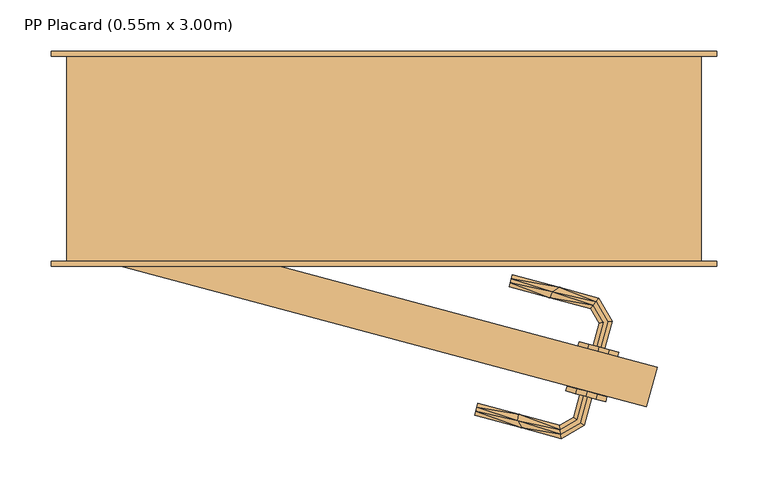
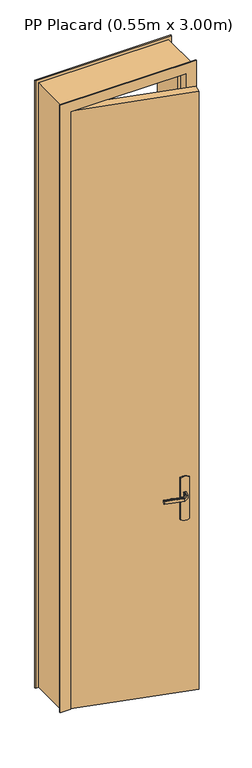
"""IFC4 building model written with IfcOpenShell, lengths in millimetres: door geometry, PP Placard (0.55m x 3.00m)."""

from ifc_helpers import new_model, si_unit, frame, origin, origin_with_axes, place, context, project, spatial, polyline, outline, extrude, faceted_brep, source, transform, mapped, element, save


def pp_placard_0_55m_x_3_00m_3d9be6f6(model_context):
    return source(origin(), model_context, "Body", "SolidModel", [
        faceted_brep([(575.0532714, -131.1267754, 1007.7804408), (578.9658479, -132.1751471, 1007.7804408), (582.8051146, -133.2038755, 1007.0), (582.8051146, -133.2038755, 993.0), (578.9658479, -132.1751471, 992.2195592), (575.0532714, -131.1267754, 992.2195592), (571.2140047, -130.098047, 993.0), (571.2140047, -130.098047, 1007.0), (572.2353685, -157.2936382, 1007.7804408), (575.648522, -159.9126429, 1007.0), (568.7570418, -154.6246242, 1007.7804408), (552.0073098, -164.2950864, 1007.7804408), (552.5795804, -168.6419128, 1007.7804408), (565.3438883, -152.0056194, 1007.0), (565.3438883, -152.0056194, 993.0), (568.7570418, -154.6246242, 992.2195592), (572.2353685, -157.2936382, 992.2195592), (552.5795804, -168.6419128, 992.2195592), (552.0073098, -164.2950864, 992.2195592), (575.648522, -159.9126429, 993.0), (553.1411283, -172.9072927, 1007.0), (551.4457619, -160.0297065, 1007.0), (551.4457619, -160.0297065, 993.0), (553.1411283, -172.9072927, 993.0), (468.486007, -150.2240213, 1007.0), (469.5147354, -146.3847546, 1007.7804408), (470.5631071, -142.4721781, 1007.7804408), (471.5918355, -138.6329114, 1007.0), (471.5918355, -138.6329114, 993.0), (470.5631071, -142.4721781, 992.2195592), (469.5147354, -146.3847546, 992.2195592), (468.486007, -150.2240213, 993.0), (510.7610226, -155.3399205, 1007.8786868), (514.5712394, -162.5725221, 1007.0), (511.5187987, -149.3313089, 1007.0), (511.5187987, -149.3313089, 993.0), (510.7610227, -155.3399206, 992.1213132), (514.5712468, -162.5725241, 993.0)], [[[0, 1, 2, 3, 4, 5, 6, 7]], [[2, 1, 8, 9]], [[1, 0, 10, 11, 12, 8]], [[0, 7, 13, 10]], [[14, 13, 7, 6]], [[5, 15, 14, 6]], [[5, 4, 16, 17, 18, 15]], [[3, 19, 16, 4]], [[9, 19, 3, 2]], [[9, 8, 12, 20]], [[10, 13, 21, 11]], [[22, 21, 13, 14]], [[14, 15, 18, 22]], [[16, 19, 23, 17]], [[20, 23, 19, 9]], [[24, 25, 26, 27, 28, 29, 30, 31]], [[32, 25, 33]], [[33, 25, 24]], [[33, 20, 12]], [[11, 34, 32]], [[34, 11, 21]], [[27, 26, 34]], [[32, 26, 25]], [[32, 34, 26]], [[32, 33, 12]], [[11, 32, 12]], [[21, 22, 35, 28, 27, 34]], [[36, 29, 35]], [[30, 36, 37]], [[18, 35, 22]], [[29, 28, 35]], [[30, 37, 31]], [[37, 17, 23]], [[36, 17, 37]], [[36, 18, 17]], [[36, 35, 18]], [[29, 36, 30]], [[23, 20, 33, 24, 31, 37]]]),
        extrude(outline(polyline([(0.0, 0.0), (206.2910989, 39.2935427), (212.0216555, 30.5643917), (215.2976776, 20.6495021), (215.8959097, 10.2245573), (213.7755833, 0.0), (7.4844843, -39.2935427), (1.7539277, -30.5643916), (-1.5220943, -20.6495021), (-2.1203264, -10.2245572), (0.0, 0.0)])), frame((596.3280762, -136.8273421, 870.0), z_axis=(0.25881904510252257, 0.9659258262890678, 0.0), x_axis=(-0.18073641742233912, 0.048428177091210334, 0.9823385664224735)), (0.0, 0.0, 1.0), 5.0),
        extrude(outline(polyline([(646.6119663, -103.7134418), (636.2592045, -142.3504748), (105.0, 0.0), (115.3527618, 38.6370331), (646.6119663, -103.7134418)])), origin_with_axes(), (0.0, 0.0, 1.0), 3010.0),
        faceted_brep([(587.9942236, -82.8304841, 992.2195592), (591.9068002, -83.8788558, 992.2195592), (595.7460669, -84.9075842, 993.0), (595.7460669, -84.9075842, 1007.0), (591.9068002, -83.8788558, 1007.7804408), (587.9942236, -82.8304841, 1007.7804408), (584.154957, -81.8017556, 1007.0), (584.154957, -81.8017556, 993.0), (589.9745561, -60.0827159, 1007.0), (589.9745561, -60.0827159, 993.0), (594.239936, -59.521168, 1007.7804408), (598.5867624, -58.9488974, 1007.7804408), (587.1412545, -39.1246963, 1007.7804408), (584.4722405, -42.603023, 1007.7804408), (602.8521423, -58.3873495, 1007.0), (602.8521423, -58.3873495, 993.0), (598.5867624, -58.9488974, 992.2195592), (594.239936, -59.521168, 992.2195592), (584.4722405, -42.603023, 992.2195592), (587.1412545, -39.1246963, 992.2195592), (581.8532358, -46.0161764, 1007.0), (581.8532358, -46.0161764, 993.0), (589.7602592, -35.7115428, 1007.0), (589.7602592, -35.7115428, 993.0), (503.1346428, -20.8086794, 1007.7804408), (504.1830145, -16.8961028, 1007.7804408), (505.2117429, -13.0568362, 1007.0), (505.2117429, -13.0568362, 993.0), (504.1830145, -16.8961028, 992.2195592), (503.1346428, -20.8086794, 992.2195592), (502.1059144, -24.6479461, 993.0), (502.1059144, -24.6479461, 1007.0), (541.9795751, -35.3320613, 1007.0), (541.9795866, -35.3320643, 993.0), (544.3276275, -29.7495629, 1007.8786868), (551.1903704, -25.3767723, 1007.0), (551.1903718, -25.3767727, 993.0), (544.3276273, -29.7495629, 992.1213132)], [[[0, 1, 2, 3, 4, 5, 6, 7]], [[8, 9, 7, 6]], [[5, 10, 8, 6]], [[5, 4, 11, 12, 13, 10]], [[3, 14, 11, 4]], [[14, 3, 2, 15]], [[2, 1, 16, 15]], [[1, 0, 17, 18, 19, 16]], [[0, 7, 9, 17]], [[20, 21, 9, 8]], [[8, 10, 13, 20]], [[14, 22, 12, 11]], [[23, 22, 14, 15]], [[15, 16, 19, 23]], [[17, 9, 21, 18]], [[24, 25, 26, 27, 28, 29, 30, 31]], [[21, 20, 32, 31, 30, 33]], [[34, 24, 32]], [[25, 34, 35]], [[13, 32, 20]], [[24, 31, 32]], [[25, 35, 26]], [[35, 12, 22]], [[34, 12, 35]], [[34, 13, 12]], [[34, 32, 13]], [[24, 34, 25]], [[22, 23, 36, 27, 26, 35]], [[37, 28, 36]], [[36, 28, 27]], [[36, 23, 19]], [[18, 33, 37]], [[33, 18, 21]], [[30, 29, 33]], [[37, 29, 28]], [[37, 33, 29]], [[37, 36, 19]], [[18, 37, 19]]]),
        extrude(outline(polyline([(0.0, 0.0), (206.2910989, 39.2935427), (212.0216555, 30.5643917), (215.2976776, 20.6495021), (215.8959097, 10.2245573), (213.7755833, 0.0), (7.4844843, -39.2935426), (1.7539277, -30.5643917), (-1.5220943, -20.6495021), (-2.1203264, -10.2245573), (0.0, 0.0)])), frame((607.9749332, -93.36068, 870.0), z_axis=(0.2588190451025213, 0.9659258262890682, 0.0), x_axis=(-0.18073641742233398, 0.04842817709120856, 0.9823385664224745)), (0.0, 0.0, 1.0), 5.0),
        faceted_brep([(690.0, 200.0, 0.0), (690.0, 0.0, 0.0), (705.0, 0.0, 0.0), (705.0, -5.0, 0.0), (655.0, -5.0, 0.0), (655.0, 40.0, 0.0), (640.0, 40.0, 0.0), (640.0, 205.0, 0.0), (705.0, 205.0, 0.0), (705.0, 200.0, 0.0), (705.0, 200.0, 3060.0), (55.0, 200.0, 3060.0), (55.0, 200.0, 0.0), (70.0, 200.0, 0.0), (70.0, 200.0, 3045.0), (690.0, 200.0, 3045.0), (705.0, 205.0, 3060.0), (640.0, 205.0, 2995.0), (120.0, 205.0, 2995.0), (120.0, 205.0, 0.0), (55.0, 205.0, 0.0), (55.0, 205.0, 3060.0), (640.0, 40.0, 2995.0), (655.0, 40.0, 3010.0), (105.0, 40.0, 3010.0), (105.0, 40.0, 0.0), (120.0, 40.0, 0.0), (120.0, 40.0, 2995.0), (655.0, -5.0, 3010.0), (705.0, -5.0, 3060.0), (55.0, -5.0, 3060.0), (55.0, -5.0, 0.0), (105.0, -5.0, 0.0), (105.0, -5.0, 3010.0), (705.0, 0.0, 3060.0), (690.0, 0.0, 3045.0), (70.0, 0.0, 3045.0), (70.0, 0.0, 0.0), (55.0, 0.0, 0.0), (55.0, 0.0, 3060.0)], [[[0, 1, 2, 3, 4, 5, 6, 7, 8, 9]], [[9, 10, 11, 12, 13, 14, 15, 0]], [[8, 16, 10, 9]], [[7, 17, 18, 19, 20, 21, 16, 8]], [[7, 6, 22, 17]], [[5, 23, 24, 25, 26, 27, 22, 6]], [[5, 4, 28, 23]], [[3, 29, 30, 31, 32, 33, 28, 4]], [[2, 34, 29, 3]], [[1, 35, 36, 37, 38, 39, 34, 2]], [[0, 15, 35, 1]], [[14, 13, 37, 36]], [[13, 12, 20, 19, 26, 25, 32, 31, 38, 37]], [[21, 20, 12, 11]], [[27, 26, 19, 18]], [[33, 32, 25, 24]], [[39, 38, 31, 30]], [[15, 14, 36, 35]], [[16, 21, 11, 10]], [[22, 27, 18, 17]], [[28, 33, 24, 23]], [[34, 39, 30, 29]]]),
    ])


if __name__ == "__main__":
    model = new_model("IFC4")
    model_context = context("Model", 3, world=origin())
    ifc_project = project(units=[si_unit("LENGTHUNIT", "METRE", prefix="MILLI")], contexts=[model_context])
    site = spatial("IfcSite", under=ifc_project)
    building = spatial("IfcBuilding", under=site)
    placement = place(None, origin())
    pp_placard_0_55m_x_3_00m_shape = pp_placard_0_55m_x_3_00m_3d9be6f6(model_context)
    element("IfcDoor", 1, ObjectType="PP Placard (0.55m x 3.00m)", at=placement, inside=building, context=model_context, shape_type="MappedRepresentation", body=[
        mapped(pp_placard_0_55m_x_3_00m_shape, transform((0.0, 0.0, 0.0), x_axis=(1.0, 0.0, 0.0), y_axis=(0.0, 1.0, 0.0), z_axis=(0.0, 0.0, 1.0))),
    ])
    save(model, "model.ifc")
